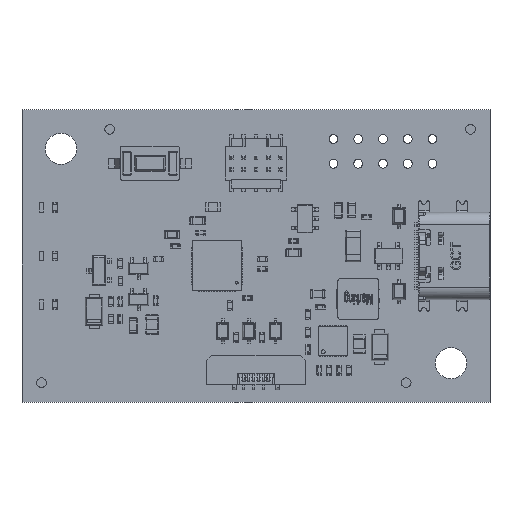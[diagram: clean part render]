
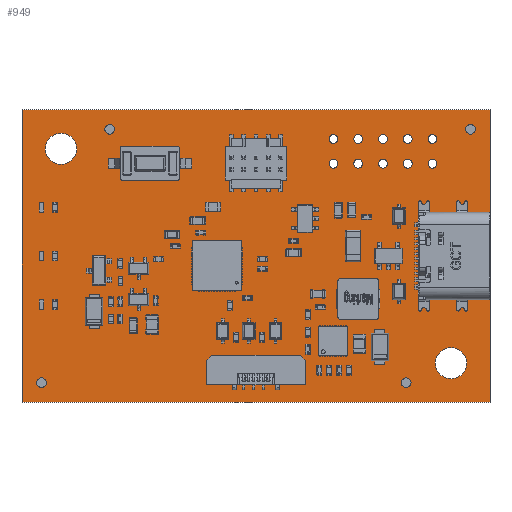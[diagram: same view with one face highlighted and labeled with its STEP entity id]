
A CAD part, top view. The second image highlights one B-rep face of the part: STEP entity #949.
In plain terms, the highlighted planar face has unit normal (0, 0, 1).
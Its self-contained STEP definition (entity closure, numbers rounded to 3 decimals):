
#316 = VERTEX_POINT('',#317);
#317 = CARTESIAN_POINT('',(0.,0.,1.63));
#323 = EDGE_CURVE('',#316,#324,#326,.T.);
#324 = VERTEX_POINT('',#325);
#325 = CARTESIAN_POINT('',(0.,30.,1.63));
#326 = LINE('',#327,#328);
#327 = CARTESIAN_POINT('',(0.,0.,1.63));
#328 = VECTOR('',#329,1.);
#329 = DIRECTION('',(0.,1.,0.));
#354 = EDGE_CURVE('',#324,#355,#357,.T.);
#355 = VERTEX_POINT('',#356);
#356 = CARTESIAN_POINT('',(48.,30.,1.63));
#357 = LINE('',#358,#359);
#358 = CARTESIAN_POINT('',(0.,30.,1.63));
#359 = VECTOR('',#360,1.);
#360 = DIRECTION('',(1.,0.,0.));
#385 = EDGE_CURVE('',#355,#386,#388,.T.);
#386 = VERTEX_POINT('',#387);
#387 = CARTESIAN_POINT('',(48.,0.,1.63));
#388 = LINE('',#389,#390);
#389 = CARTESIAN_POINT('',(48.,30.,1.63));
#390 = VECTOR('',#391,1.);
#391 = DIRECTION('',(0.,-1.,0.));
#416 = EDGE_CURVE('',#386,#316,#417,.T.);
#417 = LINE('',#418,#419);
#418 = CARTESIAN_POINT('',(48.,0.,1.63));
#419 = VECTOR('',#420,1.);
#420 = DIRECTION('',(-1.,0.,0.));
#440 = VERTEX_POINT('',#441);
#441 = CARTESIAN_POINT('',(32.39,24.46,1.63));
#447 = EDGE_CURVE('',#440,#440,#448,.T.);
#448 = CIRCLE('',#449,0.45);
#449 = AXIS2_PLACEMENT_3D('',#450,#451,#452);
#450 = CARTESIAN_POINT('',(31.94,24.46,1.63));
#451 = DIRECTION('',(0.,0.,1.));
#452 = DIRECTION('',(1.,0.,-0.));
#473 = VERTEX_POINT('',#474);
#474 = CARTESIAN_POINT('',(37.47,24.46,1.63));
#480 = EDGE_CURVE('',#473,#473,#481,.T.);
#481 = CIRCLE('',#482,0.45);
#482 = AXIS2_PLACEMENT_3D('',#483,#484,#485);
#483 = CARTESIAN_POINT('',(37.02,24.46,1.63));
#484 = DIRECTION('',(0.,0.,1.));
#485 = DIRECTION('',(1.,0.,-0.));
#506 = VERTEX_POINT('',#507);
#507 = CARTESIAN_POINT('',(34.93,24.46,1.63));
#513 = EDGE_CURVE('',#506,#506,#514,.T.);
#514 = CIRCLE('',#515,0.45);
#515 = AXIS2_PLACEMENT_3D('',#516,#517,#518);
#516 = CARTESIAN_POINT('',(34.48,24.46,1.63));
#517 = DIRECTION('',(0.,0.,1.));
#518 = DIRECTION('',(1.,0.,-0.));
#539 = VERTEX_POINT('',#540);
#540 = CARTESIAN_POINT('',(32.39,27.,1.63));
#546 = EDGE_CURVE('',#539,#539,#547,.T.);
#547 = CIRCLE('',#548,0.45);
#548 = AXIS2_PLACEMENT_3D('',#549,#550,#551);
#549 = CARTESIAN_POINT('',(31.94,27.,1.63));
#550 = DIRECTION('',(0.,0.,1.));
#551 = DIRECTION('',(1.,0.,-0.));
#572 = VERTEX_POINT('',#573);
#573 = CARTESIAN_POINT('',(5.6,26.,1.63));
#579 = EDGE_CURVE('',#572,#572,#580,.T.);
#580 = CIRCLE('',#581,1.6);
#581 = AXIS2_PLACEMENT_3D('',#582,#583,#584);
#582 = CARTESIAN_POINT('',(4.,26.,1.63));
#583 = DIRECTION('',(0.,0.,1.));
#584 = DIRECTION('',(1.,0.,-0.));
#605 = VERTEX_POINT('',#606);
#606 = CARTESIAN_POINT('',(37.47,27.,1.63));
#612 = EDGE_CURVE('',#605,#605,#613,.T.);
#613 = CIRCLE('',#614,0.45);
#614 = AXIS2_PLACEMENT_3D('',#615,#616,#617);
#615 = CARTESIAN_POINT('',(37.02,27.,1.63));
#616 = DIRECTION('',(0.,0.,1.));
#617 = DIRECTION('',(1.,0.,-0.));
#638 = VERTEX_POINT('',#639);
#639 = CARTESIAN_POINT('',(34.93,27.,1.63));
#645 = EDGE_CURVE('',#638,#638,#646,.T.);
#646 = CIRCLE('',#647,0.45);
#647 = AXIS2_PLACEMENT_3D('',#648,#649,#650);
#648 = CARTESIAN_POINT('',(34.48,27.,1.63));
#649 = DIRECTION('',(0.,0.,1.));
#650 = DIRECTION('',(1.,0.,-0.));
#671 = VERTEX_POINT('',#672);
#672 = CARTESIAN_POINT('',(42.045,17.89,1.63));
#678 = EDGE_CURVE('',#671,#671,#679,.T.);
#679 = CIRCLE('',#680,0.325);
#680 = AXIS2_PLACEMENT_3D('',#681,#682,#683);
#681 = CARTESIAN_POINT('',(41.72,17.89,1.63));
#682 = DIRECTION('',(0.,0.,1.));
#683 = DIRECTION('',(1.,0.,-0.));
#704 = VERTEX_POINT('',#705);
#705 = CARTESIAN_POINT('',(45.6,4.,1.63));
#711 = EDGE_CURVE('',#704,#704,#712,.T.);
#712 = CIRCLE('',#713,1.6);
#713 = AXIS2_PLACEMENT_3D('',#714,#715,#716);
#714 = CARTESIAN_POINT('',(44.,4.,1.63));
#715 = DIRECTION('',(0.,0.,1.));
#716 = DIRECTION('',(1.,0.,-0.));
#737 = VERTEX_POINT('',#738);
#738 = CARTESIAN_POINT('',(42.045,12.11,1.63));
#744 = EDGE_CURVE('',#737,#737,#745,.T.);
#745 = CIRCLE('',#746,0.325);
#746 = AXIS2_PLACEMENT_3D('',#747,#748,#749);
#747 = CARTESIAN_POINT('',(41.72,12.11,1.63));
#748 = DIRECTION('',(0.,0.,1.));
#749 = DIRECTION('',(1.,0.,-0.));
#770 = VERTEX_POINT('',#771);
#771 = CARTESIAN_POINT('',(40.01,24.46,1.63));
#777 = EDGE_CURVE('',#770,#770,#778,.T.);
#778 = CIRCLE('',#779,0.45);
#779 = AXIS2_PLACEMENT_3D('',#780,#781,#782);
#780 = CARTESIAN_POINT('',(39.56,24.46,1.63));
#781 = DIRECTION('',(0.,0.,1.));
#782 = DIRECTION('',(1.,0.,-0.));
#803 = VERTEX_POINT('',#804);
#804 = CARTESIAN_POINT('',(40.01,27.,1.63));
#810 = EDGE_CURVE('',#803,#803,#811,.T.);
#811 = CIRCLE('',#812,0.45);
#812 = AXIS2_PLACEMENT_3D('',#813,#814,#815);
#813 = CARTESIAN_POINT('',(39.56,27.,1.63));
#814 = DIRECTION('',(0.,0.,1.));
#815 = DIRECTION('',(1.,0.,-0.));
#836 = VERTEX_POINT('',#837);
#837 = CARTESIAN_POINT('',(42.55,24.46,1.63));
#843 = EDGE_CURVE('',#836,#836,#844,.T.);
#844 = CIRCLE('',#845,0.45);
#845 = AXIS2_PLACEMENT_3D('',#846,#847,#848);
#846 = CARTESIAN_POINT('',(42.1,24.46,1.63));
#847 = DIRECTION('',(0.,0.,1.));
#848 = DIRECTION('',(1.,0.,-0.));
#869 = VERTEX_POINT('',#870);
#870 = CARTESIAN_POINT('',(42.55,27.,1.63));
#876 = EDGE_CURVE('',#869,#869,#877,.T.);
#877 = CIRCLE('',#878,0.45);
#878 = AXIS2_PLACEMENT_3D('',#879,#880,#881);
#879 = CARTESIAN_POINT('',(42.1,27.,1.63));
#880 = DIRECTION('',(0.,0.,1.));
#881 = DIRECTION('',(1.,0.,-0.));
#949 = ADVANCED_FACE('',(#950,#956,#959,#962,#965,#968,#971,#974,#977,
    #980,#983,#986,#989,#992,#995),#998,.F.);
#950 = FACE_BOUND('',#951,.F.);
#951 = EDGE_LOOP('',(#952,#953,#954,#955));
#952 = ORIENTED_EDGE('',*,*,#323,.T.);
#953 = ORIENTED_EDGE('',*,*,#354,.T.);
#954 = ORIENTED_EDGE('',*,*,#385,.T.);
#955 = ORIENTED_EDGE('',*,*,#416,.T.);
#956 = FACE_BOUND('',#957,.F.);
#957 = EDGE_LOOP('',(#958));
#958 = ORIENTED_EDGE('',*,*,#447,.T.);
#959 = FACE_BOUND('',#960,.F.);
#960 = EDGE_LOOP('',(#961));
#961 = ORIENTED_EDGE('',*,*,#480,.T.);
#962 = FACE_BOUND('',#963,.F.);
#963 = EDGE_LOOP('',(#964));
#964 = ORIENTED_EDGE('',*,*,#513,.T.);
#965 = FACE_BOUND('',#966,.F.);
#966 = EDGE_LOOP('',(#967));
#967 = ORIENTED_EDGE('',*,*,#546,.T.);
#968 = FACE_BOUND('',#969,.F.);
#969 = EDGE_LOOP('',(#970));
#970 = ORIENTED_EDGE('',*,*,#579,.T.);
#971 = FACE_BOUND('',#972,.F.);
#972 = EDGE_LOOP('',(#973));
#973 = ORIENTED_EDGE('',*,*,#612,.T.);
#974 = FACE_BOUND('',#975,.F.);
#975 = EDGE_LOOP('',(#976));
#976 = ORIENTED_EDGE('',*,*,#645,.T.);
#977 = FACE_BOUND('',#978,.F.);
#978 = EDGE_LOOP('',(#979));
#979 = ORIENTED_EDGE('',*,*,#678,.T.);
#980 = FACE_BOUND('',#981,.F.);
#981 = EDGE_LOOP('',(#982));
#982 = ORIENTED_EDGE('',*,*,#711,.T.);
#983 = FACE_BOUND('',#984,.F.);
#984 = EDGE_LOOP('',(#985));
#985 = ORIENTED_EDGE('',*,*,#744,.T.);
#986 = FACE_BOUND('',#987,.F.);
#987 = EDGE_LOOP('',(#988));
#988 = ORIENTED_EDGE('',*,*,#777,.T.);
#989 = FACE_BOUND('',#990,.F.);
#990 = EDGE_LOOP('',(#991));
#991 = ORIENTED_EDGE('',*,*,#810,.T.);
#992 = FACE_BOUND('',#993,.F.);
#993 = EDGE_LOOP('',(#994));
#994 = ORIENTED_EDGE('',*,*,#843,.T.);
#995 = FACE_BOUND('',#996,.F.);
#996 = EDGE_LOOP('',(#997));
#997 = ORIENTED_EDGE('',*,*,#876,.T.);
#998 = PLANE('',#999);
#999 = AXIS2_PLACEMENT_3D('',#1000,#1001,#1002);
#1000 = CARTESIAN_POINT('',(24.,15.,1.63));
#1001 = DIRECTION('',(-0.,-0.,-1.));
#1002 = DIRECTION('',(-1.,0.,0.));
